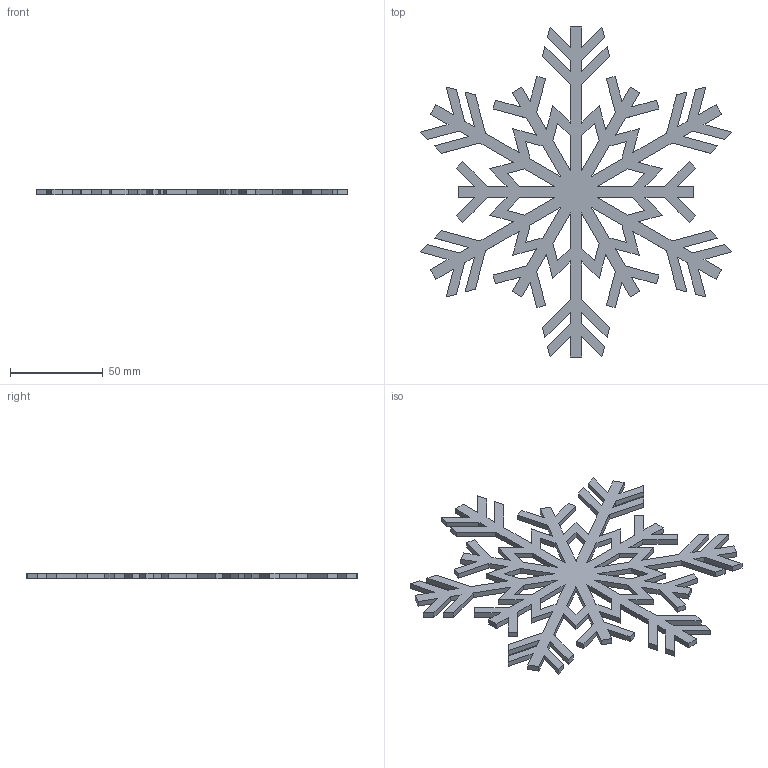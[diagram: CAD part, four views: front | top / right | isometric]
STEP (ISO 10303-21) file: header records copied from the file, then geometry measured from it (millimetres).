
FILE_DESCRIPTION(('STEP AP214'),'1');
FILE_NAME('4.stp','2026-07-01T23:19:50',(' '),(' '),'Spatial InterOp 3D',' ',' ');
FILE_SCHEMA(('AUTOMOTIVE_DESIGN { 1 0 10303 214 1 1 1 1 }'));
Length unit declared in the file: metre
Products named in the file (1): 1782947735
Bounding box: 167.99 x 177.93 x 3 mm (x, y, z)
Volume: 28951.2 mm3; surface area: 29038.6 mm2
Topology: 1 solids, 1 shells, 254 faces, 756 edges, 504 vertices
Faces by surface type: plane 254
Entity records: 13505 total; most frequent: CARTESIAN_POINT 1515, ORIENTED_EDGE 1512, DIRECTION 1266, STYLED_ITEM 867, PRESENTATION_STYLE_ASSIGNMENT 867, COLOUR_RGB 867, EDGE_CURVE 756, LINE 756
